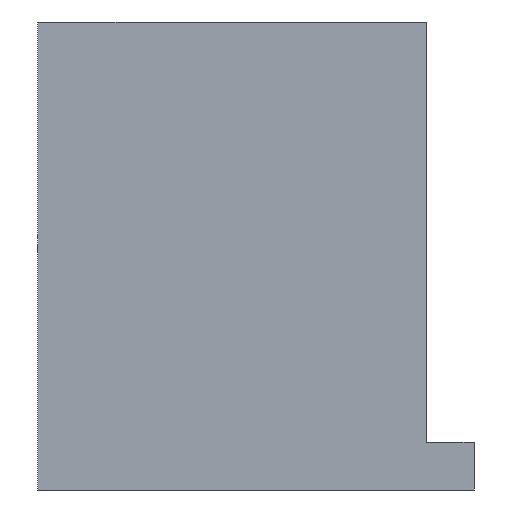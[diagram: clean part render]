
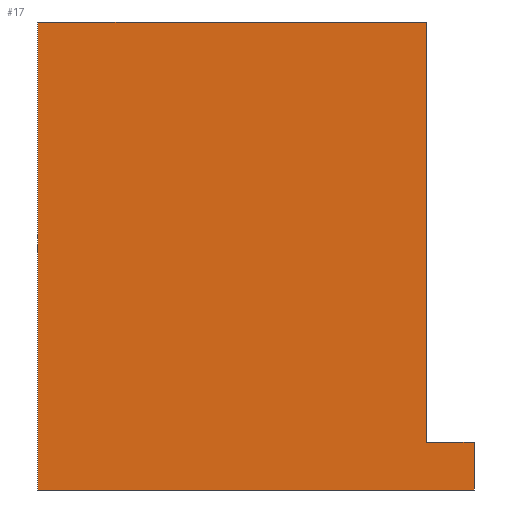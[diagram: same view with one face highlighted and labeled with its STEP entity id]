
A CAD part, left-side view. The second image highlights one B-rep face of the part: STEP entity #17.
In plain terms, the highlighted planar face has unit normal (-1, 0, 0).
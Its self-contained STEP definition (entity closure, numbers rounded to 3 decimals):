
#17 = ADVANCED_FACE('',(#18),#32,.F.);
#18 = FACE_BOUND('',#19,.F.);
#19 = EDGE_LOOP('',(#20,#55,#83,#111,#139,#167));
#20 = ORIENTED_EDGE('',*,*,#21,.F.);
#21 = EDGE_CURVE('',#22,#24,#26,.T.);
#22 = VERTEX_POINT('',#23);
#23 = CARTESIAN_POINT('',(12.,15.,15.));
#24 = VERTEX_POINT('',#25);
#25 = CARTESIAN_POINT('',(12.,15.,3.2));
#26 = SURFACE_CURVE('',#27,(#31,#43),.PCURVE_S1.);
#27 = LINE('',#28,#29);
#28 = CARTESIAN_POINT('',(12.,15.,15.));
#29 = VECTOR('',#30,1.);
#30 = DIRECTION('',(0.,0.,-1.));
#31 = PCURVE('',#32,#37);
#32 = PLANE('',#33);
#33 = AXIS2_PLACEMENT_3D('',#34,#35,#36);
#34 = CARTESIAN_POINT('',(12.,11.7,3.2));
#35 = DIRECTION('',(1.,0.,0.));
#36 = DIRECTION('',(0.,0.,1.));
#37 = DEFINITIONAL_REPRESENTATION('',(#38),#42);
#38 = LINE('',#39,#40);
#39 = CARTESIAN_POINT('',(11.8,-3.3));
#40 = VECTOR('',#41,1.);
#41 = DIRECTION('',(-1.,0.));
#42 = ( GEOMETRIC_REPRESENTATION_CONTEXT(2) 
PARAMETRIC_REPRESENTATION_CONTEXT() REPRESENTATION_CONTEXT('2D SPACE',''
  ) );
#43 = PCURVE('',#44,#49);
#44 = PLANE('',#45);
#45 = AXIS2_PLACEMENT_3D('',#46,#47,#48);
#46 = CARTESIAN_POINT('',(12.,15.,3.2));
#47 = DIRECTION('',(0.,1.,0.));
#48 = DIRECTION('',(0.,0.,1.));
#49 = DEFINITIONAL_REPRESENTATION('',(#50),#54);
#50 = LINE('',#51,#52);
#51 = CARTESIAN_POINT('',(11.8,0.));
#52 = VECTOR('',#53,1.);
#53 = DIRECTION('',(-1.,0.));
#54 = ( GEOMETRIC_REPRESENTATION_CONTEXT(2) 
PARAMETRIC_REPRESENTATION_CONTEXT() REPRESENTATION_CONTEXT('2D SPACE',''
  ) );
#55 = ORIENTED_EDGE('',*,*,#56,.F.);
#56 = EDGE_CURVE('',#57,#22,#59,.T.);
#57 = VERTEX_POINT('',#58);
#58 = CARTESIAN_POINT('',(12.,5.2,15.));
#59 = SURFACE_CURVE('',#60,(#64,#71),.PCURVE_S1.);
#60 = LINE('',#61,#62);
#61 = CARTESIAN_POINT('',(12.,5.2,15.));
#62 = VECTOR('',#63,1.);
#63 = DIRECTION('',(0.,1.,0.));
#64 = PCURVE('',#32,#65);
#65 = DEFINITIONAL_REPRESENTATION('',(#66),#70);
#66 = LINE('',#67,#68);
#67 = CARTESIAN_POINT('',(11.8,6.5));
#68 = VECTOR('',#69,1.);
#69 = DIRECTION('',(0.,-1.));
#70 = ( GEOMETRIC_REPRESENTATION_CONTEXT(2) 
PARAMETRIC_REPRESENTATION_CONTEXT() REPRESENTATION_CONTEXT('2D SPACE',''
  ) );
#71 = PCURVE('',#72,#77);
#72 = PLANE('',#73);
#73 = AXIS2_PLACEMENT_3D('',#74,#75,#76);
#74 = CARTESIAN_POINT('',(12.,11.7,15.));
#75 = DIRECTION('',(0.,0.,1.));
#76 = DIRECTION('',(1.,0.,0.));
#77 = DEFINITIONAL_REPRESENTATION('',(#78),#82);
#78 = LINE('',#79,#80);
#79 = CARTESIAN_POINT('',(0.,-6.5));
#80 = VECTOR('',#81,1.);
#81 = DIRECTION('',(0.,1.));
#82 = ( GEOMETRIC_REPRESENTATION_CONTEXT(2) 
PARAMETRIC_REPRESENTATION_CONTEXT() REPRESENTATION_CONTEXT('2D SPACE',''
  ) );
#83 = ORIENTED_EDGE('',*,*,#84,.F.);
#84 = EDGE_CURVE('',#85,#57,#87,.T.);
#85 = VERTEX_POINT('',#86);
#86 = CARTESIAN_POINT('',(12.,5.2,4.4));
#87 = SURFACE_CURVE('',#88,(#92,#99),.PCURVE_S1.);
#88 = LINE('',#89,#90);
#89 = CARTESIAN_POINT('',(12.,5.2,4.4));
#90 = VECTOR('',#91,1.);
#91 = DIRECTION('',(0.,0.,1.));
#92 = PCURVE('',#32,#93);
#93 = DEFINITIONAL_REPRESENTATION('',(#94),#98);
#94 = LINE('',#95,#96);
#95 = CARTESIAN_POINT('',(1.2,6.5));
#96 = VECTOR('',#97,1.);
#97 = DIRECTION('',(1.,0.));
#98 = ( GEOMETRIC_REPRESENTATION_CONTEXT(2) 
PARAMETRIC_REPRESENTATION_CONTEXT() REPRESENTATION_CONTEXT('2D SPACE',''
  ) );
#99 = PCURVE('',#100,#105);
#100 = PLANE('',#101);
#101 = AXIS2_PLACEMENT_3D('',#102,#103,#104);
#102 = CARTESIAN_POINT('',(12.,5.2,4.4));
#103 = DIRECTION('',(0.,1.,0.));
#104 = DIRECTION('',(0.,0.,1.));
#105 = DEFINITIONAL_REPRESENTATION('',(#106),#110);
#106 = LINE('',#107,#108);
#107 = CARTESIAN_POINT('',(0.,0.));
#108 = VECTOR('',#109,1.);
#109 = DIRECTION('',(1.,0.));
#110 = ( GEOMETRIC_REPRESENTATION_CONTEXT(2) 
PARAMETRIC_REPRESENTATION_CONTEXT() REPRESENTATION_CONTEXT('2D SPACE',''
  ) );
#111 = ORIENTED_EDGE('',*,*,#112,.F.);
#112 = EDGE_CURVE('',#113,#85,#115,.T.);
#113 = VERTEX_POINT('',#114);
#114 = CARTESIAN_POINT('',(12.,4.,4.4));
#115 = SURFACE_CURVE('',#116,(#120,#127),.PCURVE_S1.);
#116 = LINE('',#117,#118);
#117 = CARTESIAN_POINT('',(12.,4.,4.4));
#118 = VECTOR('',#119,1.);
#119 = DIRECTION('',(0.,1.,0.));
#120 = PCURVE('',#32,#121);
#121 = DEFINITIONAL_REPRESENTATION('',(#122),#126);
#122 = LINE('',#123,#124);
#123 = CARTESIAN_POINT('',(1.2,7.7));
#124 = VECTOR('',#125,1.);
#125 = DIRECTION('',(0.,-1.));
#126 = ( GEOMETRIC_REPRESENTATION_CONTEXT(2) 
PARAMETRIC_REPRESENTATION_CONTEXT() REPRESENTATION_CONTEXT('2D SPACE',''
  ) );
#127 = PCURVE('',#128,#133);
#128 = PLANE('',#129);
#129 = AXIS2_PLACEMENT_3D('',#130,#131,#132);
#130 = CARTESIAN_POINT('',(12.,4.,4.4));
#131 = DIRECTION('',(0.,0.,1.));
#132 = DIRECTION('',(1.,0.,0.));
#133 = DEFINITIONAL_REPRESENTATION('',(#134),#138);
#134 = LINE('',#135,#136);
#135 = CARTESIAN_POINT('',(0.,0.));
#136 = VECTOR('',#137,1.);
#137 = DIRECTION('',(0.,1.));
#138 = ( GEOMETRIC_REPRESENTATION_CONTEXT(2) 
PARAMETRIC_REPRESENTATION_CONTEXT() REPRESENTATION_CONTEXT('2D SPACE',''
  ) );
#139 = ORIENTED_EDGE('',*,*,#140,.F.);
#140 = EDGE_CURVE('',#141,#113,#143,.T.);
#141 = VERTEX_POINT('',#142);
#142 = CARTESIAN_POINT('',(12.,4.,3.2));
#143 = SURFACE_CURVE('',#144,(#148,#155),.PCURVE_S1.);
#144 = LINE('',#145,#146);
#145 = CARTESIAN_POINT('',(12.,4.,3.2));
#146 = VECTOR('',#147,1.);
#147 = DIRECTION('',(0.,0.,1.));
#148 = PCURVE('',#32,#149);
#149 = DEFINITIONAL_REPRESENTATION('',(#150),#154);
#150 = LINE('',#151,#152);
#151 = CARTESIAN_POINT('',(0.,7.7));
#152 = VECTOR('',#153,1.);
#153 = DIRECTION('',(1.,0.));
#154 = ( GEOMETRIC_REPRESENTATION_CONTEXT(2) 
PARAMETRIC_REPRESENTATION_CONTEXT() REPRESENTATION_CONTEXT('2D SPACE',''
  ) );
#155 = PCURVE('',#156,#161);
#156 = PLANE('',#157);
#157 = AXIS2_PLACEMENT_3D('',#158,#159,#160);
#158 = CARTESIAN_POINT('',(12.,4.,3.2));
#159 = DIRECTION('',(0.,1.,0.));
#160 = DIRECTION('',(0.,0.,1.));
#161 = DEFINITIONAL_REPRESENTATION('',(#162),#166);
#162 = LINE('',#163,#164);
#163 = CARTESIAN_POINT('',(0.,0.));
#164 = VECTOR('',#165,1.);
#165 = DIRECTION('',(1.,0.));
#166 = ( GEOMETRIC_REPRESENTATION_CONTEXT(2) 
PARAMETRIC_REPRESENTATION_CONTEXT() REPRESENTATION_CONTEXT('2D SPACE',''
  ) );
#167 = ORIENTED_EDGE('',*,*,#168,.F.);
#168 = EDGE_CURVE('',#24,#141,#169,.T.);
#169 = SURFACE_CURVE('',#170,(#174,#181),.PCURVE_S1.);
#170 = LINE('',#171,#172);
#171 = CARTESIAN_POINT('',(12.,15.,3.2));
#172 = VECTOR('',#173,1.);
#173 = DIRECTION('',(0.,-1.,0.));
#174 = PCURVE('',#32,#175);
#175 = DEFINITIONAL_REPRESENTATION('',(#176),#180);
#176 = LINE('',#177,#178);
#177 = CARTESIAN_POINT('',(0.,-3.3));
#178 = VECTOR('',#179,1.);
#179 = DIRECTION('',(0.,1.));
#180 = ( GEOMETRIC_REPRESENTATION_CONTEXT(2) 
PARAMETRIC_REPRESENTATION_CONTEXT() REPRESENTATION_CONTEXT('2D SPACE',''
  ) );
#181 = PCURVE('',#182,#187);
#182 = PLANE('',#183);
#183 = AXIS2_PLACEMENT_3D('',#184,#185,#186);
#184 = CARTESIAN_POINT('',(12.,11.7,3.2));
#185 = DIRECTION('',(0.,0.,1.));
#186 = DIRECTION('',(1.,0.,0.));
#187 = DEFINITIONAL_REPRESENTATION('',(#188),#192);
#188 = LINE('',#189,#190);
#189 = CARTESIAN_POINT('',(0.,3.3));
#190 = VECTOR('',#191,1.);
#191 = DIRECTION('',(0.,-1.));
#192 = ( GEOMETRIC_REPRESENTATION_CONTEXT(2) 
PARAMETRIC_REPRESENTATION_CONTEXT() REPRESENTATION_CONTEXT('2D SPACE',''
  ) );
